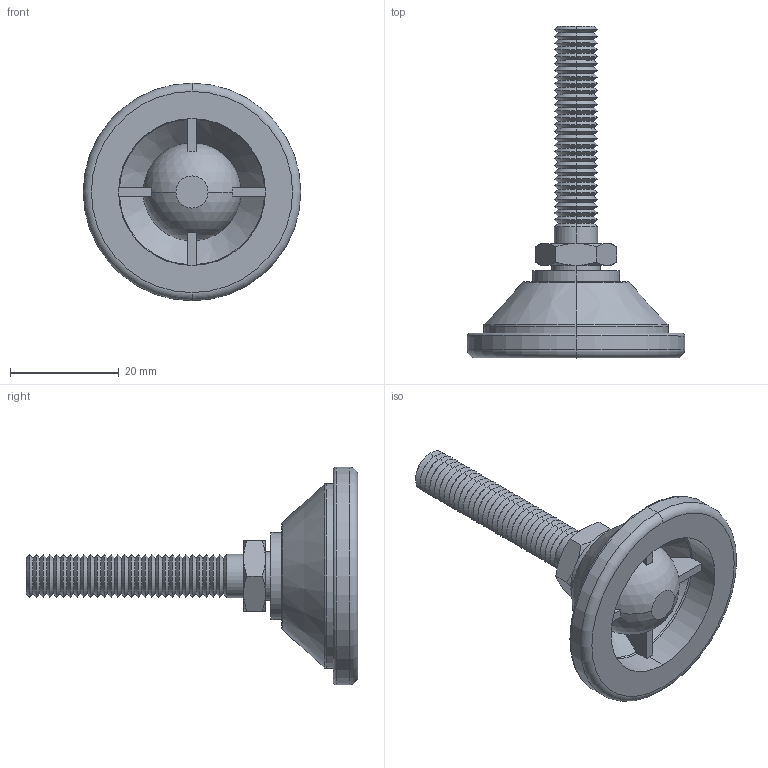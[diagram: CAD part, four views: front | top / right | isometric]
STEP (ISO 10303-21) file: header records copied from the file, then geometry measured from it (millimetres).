
FILE_DESCRIPTION (( 'STEP AP203' ), '1' );
FILE_NAME ('34741.W0082.step', '2016-09-22T07:38:16', ( 'User' ), ( '' ), 'SwSTEP 2.0', 'SolidWorks 2009', '' );
FILE_SCHEMA (( 'CONFIG_CONTROL_DESIGN' ));
Length unit declared in the file: millimetre
Products named in the file (3): Part1_34741.W0082; Part2_34741.W0082; 34741.W0082
Assembly tree (2 placements, depth 2):
  34741.W0082
    Part1_34741.W0082
    Part2_34741.W0082
Bounding box: 40 x 61 x 40 mm (x, y, z)
Volume: 10934.1 mm3; surface area: 7572.8 mm2
Topology: 2 solids, 2 shells, 196 faces, 428 edges, 238 vertices
Faces by surface type: cone 138, plane 26, cylinder 14, torus 12, sphere 6
Entity records: 5637 total; most frequent: CARTESIAN_POINT 1053, DIRECTION 1002, ORIENTED_EDGE 838, AXIS2_PLACEMENT_3D 422, EDGE_CURVE 419, VERTEX_POINT 233, CIRCLE 221, EDGE_LOOP 202
